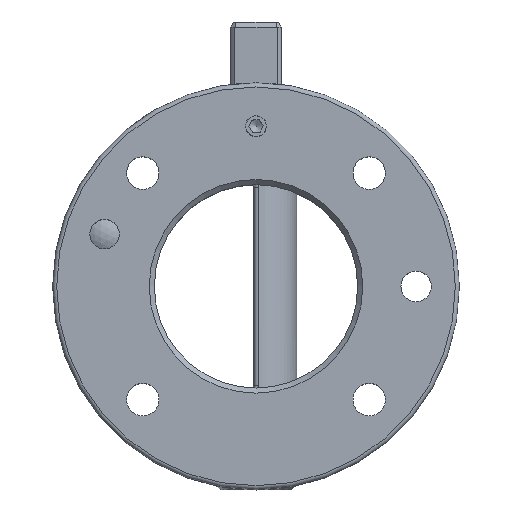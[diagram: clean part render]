
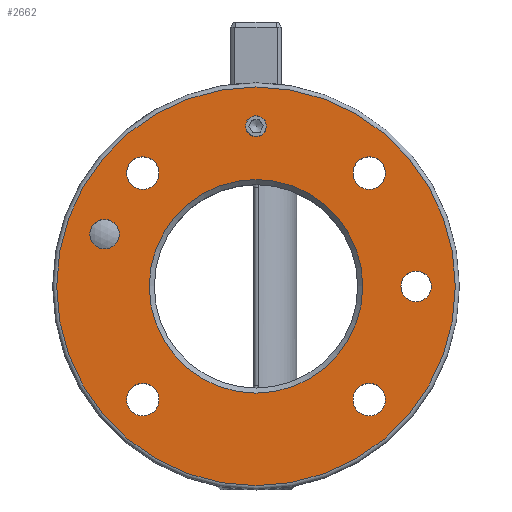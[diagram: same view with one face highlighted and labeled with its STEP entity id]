
A CAD part, top view. The second image highlights one B-rep face of the part: STEP entity #2662.
In plain terms, the highlighted planar face has unit normal (0, 0, 1).
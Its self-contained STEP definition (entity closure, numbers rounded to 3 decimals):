
#511=CARTESIAN_POINT('',(2.067,31.5,0.0));
#512=VERTEX_POINT('',#511);
#513=CARTESIAN_POINT('',(0.0,31.5,0.0));
#514=DIRECTION('',(0.0,0.0,-1.0));
#515=DIRECTION('',(1.0,0.0,0.0));
#516=AXIS2_PLACEMENT_3D('',#513,#514,#515);
#517=CIRCLE('',#516,2.067);
#518=EDGE_CURVE('',#512,#512,#517,.T.);
#2409=CARTESIAN_POINT('',(-26.884,10.255,0.0));
#2410=VERTEX_POINT('',#2409);
#2411=CARTESIAN_POINT('',(-29.784,10.255,0.0));
#2412=DIRECTION('',(0.0,0.0,-1.0));
#2413=DIRECTION('',(1.0,0.0,0.0));
#2414=AXIS2_PLACEMENT_3D('',#2411,#2412,#2413);
#2415=CIRCLE('',#2414,2.9);
#2416=EDGE_CURVE('',#2410,#2410,#2415,.T.);
#2567=CARTESIAN_POINT('',(39.2,0.,0.0));
#2568=VERTEX_POINT('',#2567);
#2569=CARTESIAN_POINT('',(0.0,0.0,0.0));
#2570=DIRECTION('',(0.0,0.0,-1.0));
#2571=DIRECTION('',(-1.0,0.0,0.0));
#2572=AXIS2_PLACEMENT_3D('',#2569,#2570,#2571);
#2573=CIRCLE('',#2572,39.2);
#2574=EDGE_CURVE('',#2568,#2568,#2573,.T.);
#2582=CARTESIAN_POINT('',(0.0,0.0,0.0));
#2583=DIRECTION('',(0.0,0.0,-1.0));
#2584=DIRECTION('',(-1.0,0.0,0.0));
#2585=AXIS2_PLACEMENT_3D('',#2582,#2583,#2584);
#2586=PLANE('',#2585);
#2587=ORIENTED_EDGE('',*,*,#2574,.F.);
#2588=EDGE_LOOP('',(#2587));
#2589=FACE_OUTER_BOUND('',#2588,.T.);
#2590=ORIENTED_EDGE('',*,*,#2416,.T.);
#2591=EDGE_LOOP('',(#2590));
#2592=FACE_BOUND('',#2591,.T.);
#2593=CARTESIAN_POINT('',(21.0,0.,0.0));
#2594=VERTEX_POINT('',#2593);
#2595=CARTESIAN_POINT('',(0.0,0.0,0.0));
#2596=DIRECTION('',(0.0,0.0,1.0));
#2597=DIRECTION('',(-1.0,0.0,0.0));
#2598=AXIS2_PLACEMENT_3D('',#2595,#2596,#2597);
#2599=CIRCLE('',#2598,21.0);
#2600=EDGE_CURVE('',#2594,#2594,#2599,.T.);
#2601=ORIENTED_EDGE('',*,*,#2600,.F.);
#2602=EDGE_LOOP('',(#2601));
#2603=FACE_BOUND('',#2602,.T.);
#2604=CARTESIAN_POINT('',(34.5,0.0,0.0));
#2605=VERTEX_POINT('',#2604);
#2606=CARTESIAN_POINT('',(31.5,0.0,0.0));
#2607=DIRECTION('',(0.0,0.0,-1.0));
#2608=DIRECTION('',(1.0,0.0,0.0));
#2609=AXIS2_PLACEMENT_3D('',#2606,#2607,#2608);
#2610=CIRCLE('',#2609,3.);
#2611=EDGE_CURVE('',#2605,#2605,#2610,.T.);
#2612=ORIENTED_EDGE('',*,*,#2611,.T.);
#2613=EDGE_LOOP('',(#2612));
#2614=FACE_BOUND('',#2613,.T.);
#2615=ORIENTED_EDGE('',*,*,#518,.T.);
#2616=EDGE_LOOP('',(#2615));
#2617=FACE_BOUND('',#2616,.T.);
#2618=CARTESIAN_POINT('',(25.474,-22.274,0.0));
#2619=VERTEX_POINT('',#2618);
#2620=CARTESIAN_POINT('',(22.274,-22.274,0.0));
#2621=DIRECTION('',(0.0,0.0,-1.0));
#2622=DIRECTION('',(-1.0,0.0,0.0));
#2623=AXIS2_PLACEMENT_3D('',#2620,#2621,#2622);
#2624=CIRCLE('',#2623,3.2);
#2625=EDGE_CURVE('',#2619,#2619,#2624,.T.);
#2626=ORIENTED_EDGE('',*,*,#2625,.T.);
#2627=EDGE_LOOP('',(#2626));
#2628=FACE_BOUND('',#2627,.T.);
#2629=CARTESIAN_POINT('',(-19.074,-22.274,0.0));
#2630=VERTEX_POINT('',#2629);
#2631=CARTESIAN_POINT('',(-22.274,-22.274,0.0));
#2632=DIRECTION('',(0.0,0.0,-1.0));
#2633=DIRECTION('',(-1.0,0.0,0.0));
#2634=AXIS2_PLACEMENT_3D('',#2631,#2632,#2633);
#2635=CIRCLE('',#2634,3.2);
#2636=EDGE_CURVE('',#2630,#2630,#2635,.T.);
#2637=ORIENTED_EDGE('',*,*,#2636,.T.);
#2638=EDGE_LOOP('',(#2637));
#2639=FACE_BOUND('',#2638,.T.);
#2640=CARTESIAN_POINT('',(-19.074,22.274,0.0));
#2641=VERTEX_POINT('',#2640);
#2642=CARTESIAN_POINT('',(-22.274,22.274,0.0));
#2643=DIRECTION('',(0.0,0.0,-1.0));
#2644=DIRECTION('',(-1.0,0.0,0.0));
#2645=AXIS2_PLACEMENT_3D('',#2642,#2643,#2644);
#2646=CIRCLE('',#2645,3.2);
#2647=EDGE_CURVE('',#2641,#2641,#2646,.T.);
#2648=ORIENTED_EDGE('',*,*,#2647,.T.);
#2649=EDGE_LOOP('',(#2648));
#2650=FACE_BOUND('',#2649,.T.);
#2651=CARTESIAN_POINT('',(25.474,22.274,0.0));
#2652=VERTEX_POINT('',#2651);
#2653=CARTESIAN_POINT('',(22.274,22.274,0.0));
#2654=DIRECTION('',(0.0,0.0,-1.0));
#2655=DIRECTION('',(-1.0,0.0,0.0));
#2656=AXIS2_PLACEMENT_3D('',#2653,#2654,#2655);
#2657=CIRCLE('',#2656,3.2);
#2658=EDGE_CURVE('',#2652,#2652,#2657,.T.);
#2659=ORIENTED_EDGE('',*,*,#2658,.T.);
#2660=EDGE_LOOP('',(#2659));
#2661=FACE_BOUND('',#2660,.T.);
#2662=ADVANCED_FACE('',(#2589,#2592,#2603,#2614,#2617,#2628,#2639,#2650,#2661),#2586,.F.);
